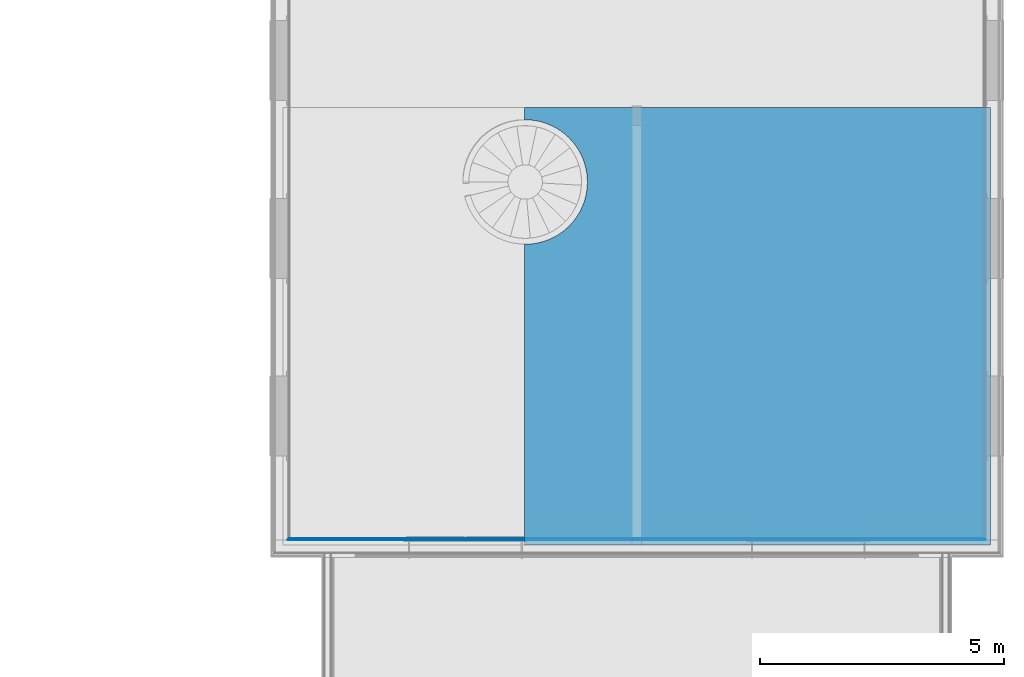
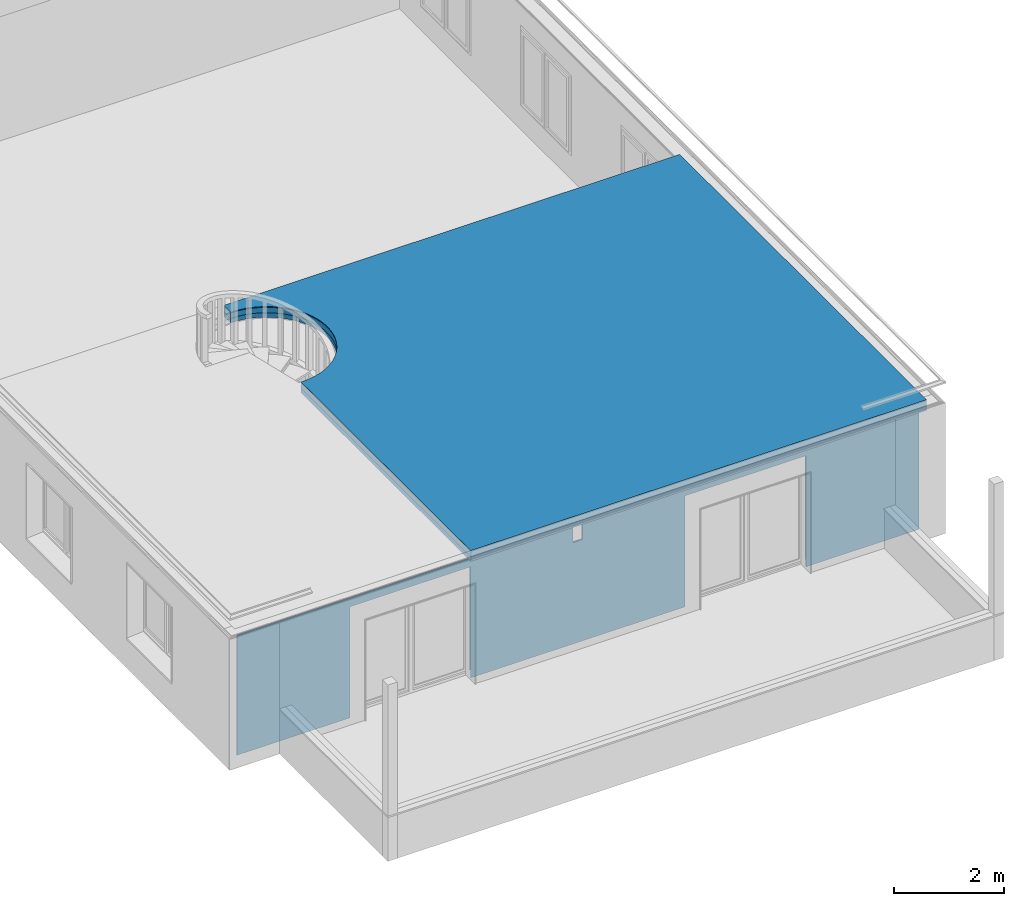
# One storey, part 16 of 36: 5 building element parts, 2 openings, 2 elements without a shape of their own.
"""IFC4 building model written with IfcOpenShell, lengths in millimetres."""

from ifc_helpers import new_model, entity, si_unit, converted_unit, derived_unit, direction, frame, origin_with_axes, place, context, subcontext, project, spatial, polygons, material, type_object, element, aggregate, save


model = new_model("IFC4")

# Units and contexts
model_context = context("Model", 3, precision=0.01, world=origin_with_axes(), true_north=direction((0.0, 1.0)))
body_context = subcontext(model_context, "Body", "Model", "MODEL_VIEW")
ifc_project = project(units=[si_unit("LENGTHUNIT", "METRE", prefix="MILLI"), si_unit("AREAUNIT", "SQUARE_METRE"), si_unit("VOLUMEUNIT", "CUBIC_METRE"), converted_unit("PLANEANGLEUNIT", "DEGREE", entity("IfcPlaneAngleMeasure", 0.0174532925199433), si_unit("PLANEANGLEUNIT", "RADIAN"), dimensions=[0, 0, 0, 0, 0, 0, 0]), converted_unit("TIMEUNIT", "Year", entity("IfcTimeMeasure", 31557600.0), si_unit("TIMEUNIT", "SECOND"), dimensions=[0, 0, 1, 0, 0, 0, 0]), si_unit("MASSUNIT", "GRAM", prefix="KILO"), si_unit("THERMODYNAMICTEMPERATUREUNIT", "DEGREE_CELSIUS"), si_unit("LUMINOUSINTENSITYUNIT", "LUMEN"), si_unit("ENERGYUNIT", "JOULE", prefix="MEGA"), derived_unit("THERMALCONDUCTANCEUNIT", [(si_unit("POWERUNIT", "WATT"), 1), (si_unit("LENGTHUNIT", "METRE"), -1), (si_unit("THERMODYNAMICTEMPERATUREUNIT", "KELVIN"), -1)]), derived_unit("SPECIFICHEATCAPACITYUNIT", [(si_unit("ENERGYUNIT", "JOULE"), 1), (si_unit("MASSUNIT", "GRAM", prefix="KILO"), -1), (si_unit("THERMODYNAMICTEMPERATUREUNIT", "KELVIN"), -1)]), derived_unit("MASSDENSITYUNIT", [(si_unit("MASSUNIT", "GRAM", prefix="KILO"), 1), (si_unit("VOLUMEUNIT", "CUBIC_METRE"), -1)])], contexts=[model_context])

# Site, building, storey
site_placement = place(None, origin_with_axes())
site = spatial("IfcSite", under=ifc_project, at=site_placement, Name="Gelände", CompositionType="ELEMENT")
building_placement = place(site_placement, origin_with_axes())
building = spatial("IfcBuilding", under=site, at=building_placement, Name="Gebäude", CompositionType="ELEMENT")
storey_placement = place(building_placement, frame((0.0, 0.0, 8700.0), z_axis=(0.0, 0.0, 1.0), x_axis=(1.0, 0.0, 0.0)))
storey = spatial("IfcBuildingStorey", under=building, at=storey_placement, Name="Attika", CompositionType="ELEMENT", Elevation=8700.0)

# Slab, building element parts
slab_type = type_object("IfcSlabType", Name="Geschossdecke Typ 01 256", PredefinedType="NOTDEFINED")
slab_placement = place(storey_placement, frame((23124.72367122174, 8696.59728131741, 3399.999896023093), z_axis=(0.0, 0.0, 1.0), x_axis=(1.0, 0.0, 0.0)))
slab = element("IfcSlab", 1, at=slab_placement, inside=storey, type_object=slab_type, Name="Deckennr.-073", PredefinedType="NOTDEFINED")
ifc_material_1 = material(Name="Grobspanplatte-OSB")
building_element_part_1_placement = place(slab_placement, origin_with_axes())
building_element_part_1 = element("IfcBuildingElementPart", 2, at=building_element_part_1_placement, material=ifc_material_1, Name="Grobspanplatte-OSB", PredefinedType="NOTDEFINED", context=body_context, shape_type="Tessellation", body=[
    polygons([(9555.273872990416, 0.0, -18.00000000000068), (9555.273872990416, 0.0, 0.0), (0.0, 0.0, 0.0), (0.0, 0.0, -18.00000000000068), (9555.273872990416, 8966.072831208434, -18.00000000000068), (9555.273872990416, 8966.072831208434, 0.0), (0.0, 8966.072831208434, 0.0), (0.0, 8713.355102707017, 0.0), (16.77412635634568, 8713.072831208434, 0.0), (146.1478094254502, 8707.738222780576, 0.0), (257.7184075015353, 8691.341771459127, 0.0), (367.4032898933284, 8665.148861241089, 0.0), (474.3440236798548, 8629.364487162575, 0.0), (577.7036526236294, 8584.268710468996, 0.0), (676.6732474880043, 8530.214466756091, 0.0), (770.478237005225, 8467.624803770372, 0.0), (858.3844699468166, 8396.9895704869, 0.0), (939.7039608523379, 8318.861583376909, 0.0), (1013.800274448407, 8233.852299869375, 0.0), (1080.093506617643, 8142.627032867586, 0.0), (1138.064822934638, 8045.899743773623, 0.0), (1187.260519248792, 7944.427454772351, 0.0), (1227.295572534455, 7839.004324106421, 0.0), (1257.856654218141, 7730.455430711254, 0.0), (1278.704582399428, 7619.6303168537, 0.0), (1289.676193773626, 7507.396339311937, 0.0), (1290.685620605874, 7394.631881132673, 0.0), (1281.724962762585, 7282.219477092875, 0.0), (1262.864349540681, 7171.038906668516, 0.0), (1234.251390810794, 7061.960308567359, 0.0), (1196.110021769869, 6955.837370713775, 0.0), (1148.738750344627, 6853.500648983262, 0.0), (1092.50832096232, 6755.751066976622, 0.0), (1027.858812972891, 6663.353647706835, 0.0), (955.2961964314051, 6577.031526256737, 0.0), (875.3883721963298, 6497.460290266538, 0.0), (788.7607273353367, 6425.262692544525, 0.0), (696.0912406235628, 6361.003777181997, 0.0), (598.1051764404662, 6305.186457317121, 0.0), (495.5694085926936, 6258.247579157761, 0.0), (389.2864184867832, 6220.554503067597, 0.0), (280.0880146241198, 6192.402228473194, 0.0), (168.8288225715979, 6174.011085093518, 0.0), (56.37959635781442, 6165.525008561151, 0.0), (0.0, 6166.267711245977, 0.0), (0.0, 6166.267711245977, -18.00000000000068), (56.37959635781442, 6165.525008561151, -18.00000000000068), (168.8288225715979, 6174.011085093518, -18.00000000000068), (280.0880146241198, 6192.402228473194, -18.00000000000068), (389.2864184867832, 6220.554503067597, -18.00000000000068), (495.5694085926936, 6258.247579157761, -18.00000000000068), (598.1051764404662, 6305.186457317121, -18.00000000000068), (696.0912406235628, 6361.003777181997, -18.00000000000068), (788.7607273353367, 6425.262692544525, -18.00000000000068), (875.3883721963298, 6497.460290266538, -18.00000000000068), (955.2961964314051, 6577.031526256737, -18.00000000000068), (1027.858812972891, 6663.353647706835, -18.00000000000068), (1092.50832096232, 6755.751066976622, -18.00000000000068), (1148.738750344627, 6853.500648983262, -18.00000000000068), (1196.110021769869, 6955.837370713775, -18.00000000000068), (1234.251390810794, 7061.960308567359, -18.00000000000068), (1262.864349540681, 7171.038906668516, -18.00000000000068), (1281.724962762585, 7282.219477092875, -18.00000000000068), (1290.685620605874, 7394.631881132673, -18.00000000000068), (1289.676193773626, 7507.396339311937, -18.00000000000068), (1278.704582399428, 7619.6303168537, -18.00000000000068), (1257.856654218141, 7730.455430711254, -18.00000000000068), (1227.295572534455, 7839.004324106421, -18.00000000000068), (1187.260519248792, 7944.427454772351, -18.00000000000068), (1138.064822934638, 8045.899743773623, -18.00000000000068), (1080.093506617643, 8142.627032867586, -18.00000000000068), (1013.800274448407, 8233.852299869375, -18.00000000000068), (939.7039608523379, 8318.861583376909, -18.00000000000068), (858.3844699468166, 8396.9895704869, -18.00000000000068), (770.478237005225, 8467.624803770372, -18.00000000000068), (676.6732474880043, 8530.214466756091, -18.00000000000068), (577.7036526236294, 8584.268710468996, -18.00000000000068), (474.3440236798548, 8629.364487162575, -18.00000000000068), (367.4032898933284, 8665.148861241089, -18.00000000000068), (257.7184075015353, 8691.341771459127, -18.00000000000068), (146.1478094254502, 8707.738222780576, -18.00000000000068), (16.77412635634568, 8713.072831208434, -18.00000000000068), (0.0, 8713.355102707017, -18.00000000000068), (0.0, 8966.072831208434, -18.00000000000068)], [[[1, 2, 3, 4]], [[5, 6, 2, 1]], [[3, 2, 6, 7, 8, 9, 10, 11, 12, 13, 14, 15, 16, 17, 18, 19, 20, 21, 22, 23, 24, 25, 26, 27, 28, 29, 30, 31, 32, 33, 34, 35, 36, 37, 38, 39, 40, 41, 42, 43, 44, 45]], [[4, 3, 45, 46]], [[4, 46, 47, 48, 49, 50, 51, 52, 53, 54, 55, 56, 57, 58, 59, 60, 61, 62, 63, 64, 65, 66, 67, 68, 69, 70, 71, 72, 73, 74, 75, 76, 77, 78, 79, 80, 81, 82, 83, 84, 5, 1]], [[84, 7, 6, 5]], [[83, 8, 7, 84]], [[82, 9, 8, 83]], [[81, 10, 9, 82]], [[80, 11, 10, 81]], [[79, 12, 11, 80]], [[78, 13, 12, 79]], [[77, 14, 13, 78]], [[76, 15, 14, 77]], [[75, 16, 15, 76]], [[74, 17, 16, 75]], [[73, 18, 17, 74]], [[72, 19, 18, 73]], [[71, 20, 19, 72]], [[70, 21, 20, 71]], [[69, 22, 21, 70]], [[68, 23, 22, 69]], [[67, 24, 23, 68]], [[66, 25, 24, 67]], [[65, 26, 25, 66]], [[64, 27, 26, 65]], [[63, 28, 27, 64]], [[62, 29, 28, 63]], [[61, 30, 29, 62]], [[60, 31, 30, 61]], [[59, 32, 31, 60]], [[58, 33, 32, 59]], [[57, 34, 33, 58]], [[56, 35, 34, 57]], [[55, 36, 35, 56]], [[54, 37, 36, 55]], [[53, 38, 37, 54]], [[52, 39, 38, 53]], [[51, 40, 39, 52]], [[50, 41, 40, 51]], [[49, 42, 41, 50]], [[48, 43, 42, 49]], [[47, 44, 43, 48]], [[46, 45, 44, 47]]], closed=True),
])
ifc_material_2 = material(Name="Balken Konstruktion ungedämmt")
building_element_part_2_placement = place(slab_placement, origin_with_axes())
building_element_part_2 = element("IfcBuildingElementPart", 3, at=building_element_part_2_placement, material=ifc_material_2, Name="Balken Konstruktion ungedämmt", PredefinedType="NOTDEFINED", context=body_context, shape_type="Tessellation", body=[
    polygons([(9555.273872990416, 0.0, -137.9999999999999), (9555.273872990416, 0.0, -18.00000000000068), (0.0, 0.0, -18.00000000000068), (0.0, 0.0, -137.9999999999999), (9555.273872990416, 8966.072831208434, -137.9999999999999), (9555.273872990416, 8966.072831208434, -18.00000000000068), (0.0, 8966.072831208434, -18.00000000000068), (0.0, 8713.355102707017, -18.00000000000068), (16.77412635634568, 8713.072831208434, -18.00000000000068), (146.1478094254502, 8707.738222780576, -18.00000000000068), (257.7184075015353, 8691.341771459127, -18.00000000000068), (367.4032898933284, 8665.148861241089, -18.00000000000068), (474.3440236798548, 8629.364487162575, -18.00000000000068), (577.7036526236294, 8584.268710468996, -18.00000000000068), (676.6732474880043, 8530.214466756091, -18.00000000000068), (770.478237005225, 8467.624803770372, -18.00000000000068), (858.3844699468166, 8396.9895704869, -18.00000000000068), (939.7039608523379, 8318.861583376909, -18.00000000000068), (1013.800274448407, 8233.852299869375, -18.00000000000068), (1080.093506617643, 8142.627032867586, -18.00000000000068), (1138.064822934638, 8045.899743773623, -18.00000000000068), (1187.260519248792, 7944.427454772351, -18.00000000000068), (1227.295572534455, 7839.004324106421, -18.00000000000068), (1257.856654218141, 7730.455430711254, -18.00000000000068), (1278.704582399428, 7619.6303168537, -18.00000000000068), (1289.676193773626, 7507.396339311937, -18.00000000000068), (1290.685620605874, 7394.631881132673, -18.00000000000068), (1281.724962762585, 7282.219477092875, -18.00000000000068), (1262.864349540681, 7171.038906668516, -18.00000000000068), (1234.251390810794, 7061.960308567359, -18.00000000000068), (1196.110021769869, 6955.837370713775, -18.00000000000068), (1148.738750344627, 6853.500648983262, -18.00000000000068), (1092.50832096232, 6755.751066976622, -18.00000000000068), (1027.858812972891, 6663.353647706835, -18.00000000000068), (955.2961964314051, 6577.031526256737, -18.00000000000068), (875.3883721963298, 6497.460290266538, -18.00000000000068), (788.7607273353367, 6425.262692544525, -18.00000000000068), (696.0912406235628, 6361.003777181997, -18.00000000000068), (598.1051764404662, 6305.186457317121, -18.00000000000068), (495.5694085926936, 6258.247579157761, -18.00000000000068), (389.2864184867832, 6220.554503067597, -18.00000000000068), (280.0880146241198, 6192.402228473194, -18.00000000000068), (168.8288225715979, 6174.011085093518, -18.00000000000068), (56.37959635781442, 6165.525008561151, -18.00000000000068), (0.0, 6166.267711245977, -18.00000000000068), (0.0, 6166.267711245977, -137.9999999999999), (56.37959635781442, 6165.525008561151, -137.9999999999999), (168.8288225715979, 6174.011085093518, -137.9999999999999), (280.0880146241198, 6192.402228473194, -137.9999999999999), (389.2864184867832, 6220.554503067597, -137.9999999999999), (495.5694085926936, 6258.247579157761, -137.9999999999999), (598.1051764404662, 6305.186457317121, -137.9999999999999), (696.0912406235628, 6361.003777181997, -137.9999999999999), (788.7607273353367, 6425.262692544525, -137.9999999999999), (875.3883721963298, 6497.460290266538, -137.9999999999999), (955.2961964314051, 6577.031526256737, -137.9999999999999), (1027.858812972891, 6663.353647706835, -137.9999999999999), (1092.50832096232, 6755.751066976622, -137.9999999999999), (1148.738750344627, 6853.500648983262, -137.9999999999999), (1196.110021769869, 6955.837370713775, -137.9999999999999), (1234.251390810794, 7061.960308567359, -137.9999999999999), (1262.864349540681, 7171.038906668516, -137.9999999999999), (1281.724962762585, 7282.219477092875, -137.9999999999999), (1290.685620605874, 7394.631881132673, -137.9999999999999), (1289.676193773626, 7507.396339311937, -137.9999999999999), (1278.704582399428, 7619.6303168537, -137.9999999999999), (1257.856654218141, 7730.455430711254, -137.9999999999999), (1227.295572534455, 7839.004324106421, -137.9999999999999), (1187.260519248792, 7944.427454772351, -137.9999999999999), (1138.064822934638, 8045.899743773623, -137.9999999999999), (1080.093506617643, 8142.627032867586, -137.9999999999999), (1013.800274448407, 8233.852299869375, -137.9999999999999), (939.7039608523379, 8318.861583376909, -137.9999999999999), (858.3844699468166, 8396.9895704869, -137.9999999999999), (770.478237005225, 8467.624803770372, -137.9999999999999), (676.6732474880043, 8530.214466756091, -137.9999999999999), (577.7036526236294, 8584.268710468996, -137.9999999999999), (474.3440236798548, 8629.364487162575, -137.9999999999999), (367.4032898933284, 8665.148861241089, -137.9999999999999), (257.7184075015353, 8691.341771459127, -137.9999999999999), (146.1478094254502, 8707.738222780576, -137.9999999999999), (16.77412635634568, 8713.072831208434, -137.9999999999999), (0.0, 8713.355102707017, -137.9999999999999), (0.0, 8966.072831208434, -137.9999999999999)], [[[1, 2, 3, 4]], [[5, 6, 2, 1]], [[3, 2, 6, 7, 8, 9, 10, 11, 12, 13, 14, 15, 16, 17, 18, 19, 20, 21, 22, 23, 24, 25, 26, 27, 28, 29, 30, 31, 32, 33, 34, 35, 36, 37, 38, 39, 40, 41, 42, 43, 44, 45]], [[4, 3, 45, 46]], [[4, 46, 47, 48, 49, 50, 51, 52, 53, 54, 55, 56, 57, 58, 59, 60, 61, 62, 63, 64, 65, 66, 67, 68, 69, 70, 71, 72, 73, 74, 75, 76, 77, 78, 79, 80, 81, 82, 83, 84, 5, 1]], [[84, 7, 6, 5]], [[83, 8, 7, 84]], [[82, 9, 8, 83]], [[81, 10, 9, 82]], [[80, 11, 10, 81]], [[79, 12, 11, 80]], [[78, 13, 12, 79]], [[77, 14, 13, 78]], [[76, 15, 14, 77]], [[75, 16, 15, 76]], [[74, 17, 16, 75]], [[73, 18, 17, 74]], [[72, 19, 18, 73]], [[71, 20, 19, 72]], [[70, 21, 20, 71]], [[69, 22, 21, 70]], [[68, 23, 22, 69]], [[67, 24, 23, 68]], [[66, 25, 24, 67]], [[65, 26, 25, 66]], [[64, 27, 26, 65]], [[63, 28, 27, 64]], [[62, 29, 28, 63]], [[61, 30, 29, 62]], [[60, 31, 30, 61]], [[59, 32, 31, 60]], [[58, 33, 32, 59]], [[57, 34, 33, 58]], [[56, 35, 34, 57]], [[55, 36, 35, 56]], [[54, 37, 36, 55]], [[53, 38, 37, 54]], [[52, 39, 38, 53]], [[51, 40, 39, 52]], [[50, 41, 40, 51]], [[49, 42, 41, 50]], [[48, 43, 42, 49]], [[47, 44, 43, 48]], [[46, 45, 44, 47]]], closed=True),
])
ifc_material_3 = material(Name="Balken Konstruktion gedämmt")
building_element_part_3_placement = place(slab_placement, origin_with_axes())
building_element_part_3 = element("IfcBuildingElementPart", 4, at=building_element_part_3_placement, material=ifc_material_3, Name="Balken Konstruktion gedämmt", PredefinedType="NOTDEFINED", context=body_context, shape_type="Tessellation", body=[
    polygons([(9555.273872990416, 0.0, -237.9999999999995), (9555.273872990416, 0.0, -137.9999999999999), (0.0, 0.0, -137.9999999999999), (0.0, 0.0, -237.9999999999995), (9555.273872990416, 8966.072831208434, -237.9999999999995), (9555.273872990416, 8966.072831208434, -137.9999999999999), (0.0, 8966.072831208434, -137.9999999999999), (0.0, 8713.355102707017, -137.9999999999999), (16.77412635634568, 8713.072831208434, -137.9999999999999), (146.1478094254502, 8707.738222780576, -137.9999999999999), (257.7184075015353, 8691.341771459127, -137.9999999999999), (367.4032898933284, 8665.148861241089, -137.9999999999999), (474.3440236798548, 8629.364487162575, -137.9999999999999), (577.7036526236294, 8584.268710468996, -137.9999999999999), (676.6732474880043, 8530.214466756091, -137.9999999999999), (770.478237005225, 8467.624803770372, -137.9999999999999), (858.3844699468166, 8396.9895704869, -137.9999999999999), (939.7039608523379, 8318.861583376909, -137.9999999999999), (1013.800274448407, 8233.852299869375, -137.9999999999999), (1080.093506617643, 8142.627032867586, -137.9999999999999), (1138.064822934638, 8045.899743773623, -137.9999999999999), (1187.260519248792, 7944.427454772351, -137.9999999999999), (1227.295572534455, 7839.004324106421, -137.9999999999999), (1257.856654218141, 7730.455430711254, -137.9999999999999), (1278.704582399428, 7619.6303168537, -137.9999999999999), (1289.676193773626, 7507.396339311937, -137.9999999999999), (1290.685620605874, 7394.631881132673, -137.9999999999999), (1281.724962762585, 7282.219477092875, -137.9999999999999), (1262.864349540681, 7171.038906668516, -137.9999999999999), (1234.251390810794, 7061.960308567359, -137.9999999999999), (1196.110021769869, 6955.837370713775, -137.9999999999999), (1148.738750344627, 6853.500648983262, -137.9999999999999), (1092.50832096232, 6755.751066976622, -137.9999999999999), (1027.858812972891, 6663.353647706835, -137.9999999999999), (955.2961964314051, 6577.031526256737, -137.9999999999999), (875.3883721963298, 6497.460290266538, -137.9999999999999), (788.7607273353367, 6425.262692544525, -137.9999999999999), (696.0912406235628, 6361.003777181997, -137.9999999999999), (598.1051764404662, 6305.186457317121, -137.9999999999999), (495.5694085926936, 6258.247579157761, -137.9999999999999), (389.2864184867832, 6220.554503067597, -137.9999999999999), (280.0880146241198, 6192.402228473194, -137.9999999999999), (168.8288225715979, 6174.011085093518, -137.9999999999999), (56.37959635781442, 6165.525008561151, -137.9999999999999), (0.0, 6166.267711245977, -137.9999999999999), (0.0, 6166.267711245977, -237.9999999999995), (56.37959635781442, 6165.525008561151, -237.9999999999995), (168.8288225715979, 6174.011085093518, -237.9999999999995), (280.0880146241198, 6192.402228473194, -237.9999999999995), (389.2864184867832, 6220.554503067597, -237.9999999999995), (495.5694085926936, 6258.247579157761, -237.9999999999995), (598.1051764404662, 6305.186457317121, -237.9999999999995), (696.0912406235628, 6361.003777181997, -237.9999999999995), (788.7607273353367, 6425.262692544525, -237.9999999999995), (875.3883721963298, 6497.460290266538, -237.9999999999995), (955.2961964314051, 6577.031526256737, -237.9999999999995), (1027.858812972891, 6663.353647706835, -237.9999999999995), (1092.50832096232, 6755.751066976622, -237.9999999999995), (1148.738750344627, 6853.500648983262, -237.9999999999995), (1196.110021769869, 6955.837370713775, -237.9999999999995), (1234.251390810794, 7061.960308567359, -237.9999999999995), (1262.864349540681, 7171.038906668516, -237.9999999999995), (1281.724962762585, 7282.219477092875, -237.9999999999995), (1290.685620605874, 7394.631881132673, -237.9999999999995), (1289.676193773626, 7507.396339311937, -237.9999999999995), (1278.704582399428, 7619.6303168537, -237.9999999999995), (1257.856654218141, 7730.455430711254, -237.9999999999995), (1227.295572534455, 7839.004324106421, -237.9999999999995), (1187.260519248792, 7944.427454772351, -237.9999999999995), (1138.064822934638, 8045.899743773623, -237.9999999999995), (1080.093506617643, 8142.627032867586, -237.9999999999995), (1013.800274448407, 8233.852299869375, -237.9999999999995), (939.7039608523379, 8318.861583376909, -237.9999999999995), (858.3844699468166, 8396.9895704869, -237.9999999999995), (770.478237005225, 8467.624803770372, -237.9999999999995), (676.6732474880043, 8530.214466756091, -237.9999999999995), (577.7036526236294, 8584.268710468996, -237.9999999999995), (474.3440236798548, 8629.364487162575, -237.9999999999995), (367.4032898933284, 8665.148861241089, -237.9999999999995), (257.7184075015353, 8691.341771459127, -237.9999999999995), (146.1478094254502, 8707.738222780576, -237.9999999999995), (16.77412635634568, 8713.072831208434, -237.9999999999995), (0.0, 8713.355102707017, -237.9999999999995), (0.0, 8966.072831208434, -237.9999999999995)], [[[1, 2, 3, 4]], [[5, 6, 2, 1]], [[3, 2, 6, 7, 8, 9, 10, 11, 12, 13, 14, 15, 16, 17, 18, 19, 20, 21, 22, 23, 24, 25, 26, 27, 28, 29, 30, 31, 32, 33, 34, 35, 36, 37, 38, 39, 40, 41, 42, 43, 44, 45]], [[4, 3, 45, 46]], [[4, 46, 47, 48, 49, 50, 51, 52, 53, 54, 55, 56, 57, 58, 59, 60, 61, 62, 63, 64, 65, 66, 67, 68, 69, 70, 71, 72, 73, 74, 75, 76, 77, 78, 79, 80, 81, 82, 83, 84, 5, 1]], [[84, 7, 6, 5]], [[83, 8, 7, 84]], [[82, 9, 8, 83]], [[81, 10, 9, 82]], [[80, 11, 10, 81]], [[79, 12, 11, 80]], [[78, 13, 12, 79]], [[77, 14, 13, 78]], [[76, 15, 14, 77]], [[75, 16, 15, 76]], [[74, 17, 16, 75]], [[73, 18, 17, 74]], [[72, 19, 18, 73]], [[71, 20, 19, 72]], [[70, 21, 20, 71]], [[69, 22, 21, 70]], [[68, 23, 22, 69]], [[67, 24, 23, 68]], [[66, 25, 24, 67]], [[65, 26, 25, 66]], [[64, 27, 26, 65]], [[63, 28, 27, 64]], [[62, 29, 28, 63]], [[61, 30, 29, 62]], [[60, 31, 30, 61]], [[59, 32, 31, 60]], [[58, 33, 32, 59]], [[57, 34, 33, 58]], [[56, 35, 34, 57]], [[55, 36, 35, 56]], [[54, 37, 36, 55]], [[53, 38, 37, 54]], [[52, 39, 38, 53]], [[51, 40, 39, 52]], [[50, 41, 40, 51]], [[49, 42, 41, 50]], [[48, 43, 42, 49]], [[47, 44, 43, 48]], [[46, 45, 44, 47]]], closed=True),
])
aggregate(slab, [building_element_part_1, building_element_part_2, building_element_part_3])

# Wall, openings, building element parts
wall_type = type_object("IfcWallType", Name="Aussenwand Typ 01 318", PredefinedType="NOTDEFINED")
wall_placement = place(storey_placement, frame((32857.99744477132, 8518.597281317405, 500.0), z_axis=(0.0, 0.0, 1.0), x_axis=(-1.0, 0.0, 0.0)))
wall = element("IfcWall", 5, at=wall_placement, inside=storey, type_object=wall_type, Name="Wand-014", PredefinedType="NOTDEFINED")
opening_1_placement = place(wall_placement, frame((10942.33333333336, 0.0, 159.9999480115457), z_axis=(0.0, 0.0, 1.0), x_axis=(1.0, 0.0, 0.0)))
element("IfcOpeningElement", 6, at=opening_1_placement, cuts=wall, Name="Fenster-004", context=body_context, identifier="Reference", shape_type="Tessellation", body=[
    polygons([(-1166.0, -250.0, 2201.000051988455), (1166.0, -250.0000000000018, 2201.000051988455), (1166.0, 1.000000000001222, 2201.000051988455), (-1166.0, 1.000000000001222, 2201.000051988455), (1145.0, -150.0000000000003, 2201.000051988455), (-1145.0, -150.0000000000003, 2201.000051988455), (-1145.0, 0.0, 2201.000051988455), (1145.0, 0.0, 2201.000051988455), (-1166.0, -250.0, -160.0000000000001), (-1266.000000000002, -250.0, -160.0000000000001), (-1266.000000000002, -250.0, 2301.000051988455), (1266.000000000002, -250.0000000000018, 2301.000051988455), (1266.000000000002, -250.0000000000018, -160.0000000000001), (1166.0, -250.0000000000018, -160.0000000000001), (1166.0, 1.000000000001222, -160.0000000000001), (-1166.0, 1.000000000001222, -160.0000000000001), (1145.0, -150.0000000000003, 2470.000051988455), (-1145.0, -150.0000000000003, 2470.000051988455), (-1145.0, 0.0, 2470.000051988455), (1145.0, 0.0, 2470.000051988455), (1266.000000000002, -319.0000000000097, -160.0000000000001), (-1266.000000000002, -319.000000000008, -160.0000000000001), (-1266.000000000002, -319.000000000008, 2301.000051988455), (1266.000000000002, -319.0000000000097, 2301.000051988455)], [[[1, 2, 3, 4], [5, 6, 7, 8]], [[2, 1, 9, 10, 11, 12, 13, 14]], [[2, 14, 15, 3]], [[3, 15, 16, 4]], [[9, 1, 4, 16]], [[6, 5, 17, 18]], [[7, 6, 18, 19]], [[8, 7, 19, 20]], [[5, 8, 20, 17]], [[9, 14, 13, 21, 22, 10]], [[11, 10, 22, 23]], [[12, 11, 23, 24]], [[13, 12, 24, 21]], [[14, 9, 16, 15]], [[17, 20, 19, 18]], [[23, 22, 21, 24]]], closed=True),
])
opening_2_placement = place(wall_placement, frame((3915.666667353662, 0.0, 140.0000000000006), z_axis=(0.0, 0.0, 1.0), x_axis=(1.0, 0.0, 0.0)))
element("IfcOpeningElement", 7, at=opening_2_placement, cuts=wall, Name="Fenster-004", context=body_context, identifier="Reference", shape_type="Tessellation", body=[
    polygons([(-1166.0, -249.9999999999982, 2221.0), (1166.0, -250.0, 2221.0), (1166.0, 1.000000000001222, 2221.0), (-1166.0, 1.000000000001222, 2221.0), (1145.0, -149.9999999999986, 2221.0), (-1145.0, -149.9999999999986, 2221.0), (-1145.0, 0.0, 2221.0), (1145.0, 0.0, 2221.0), (-1166.0, -249.9999999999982, -140.0000000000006), (-1265.999999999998, -249.9999999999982, -140.0000000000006), (-1265.999999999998, -249.9999999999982, 2321.0), (1265.999999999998, -250.0, 2321.0), (1265.999999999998, -250.0, -140.0000000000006), (1166.0, -250.0, -140.0000000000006), (1166.0, 1.000000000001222, -140.0000000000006), (-1166.0, 1.000000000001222, -140.0000000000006), (1145.0, -149.9999999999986, 2490.0), (-1145.0, -149.9999999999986, 2490.0), (-1145.0, 0.0, 2490.0), (1145.0, 0.0, 2490.0), (1265.999999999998, -319.0000000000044, -140.0000000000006), (-1265.999999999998, -319.0000000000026, -140.0000000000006), (-1265.999999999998, -319.0000000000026, 2321.0), (1265.999999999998, -319.0000000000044, 2321.0)], [[[1, 2, 3, 4], [5, 6, 7, 8]], [[2, 1, 9, 10, 11, 12, 13, 14]], [[2, 14, 15, 3]], [[3, 15, 16, 4]], [[9, 1, 4, 16]], [[6, 5, 17, 18]], [[7, 6, 18, 19]], [[8, 7, 19, 20]], [[5, 8, 20, 17]], [[9, 14, 13, 21, 22, 10]], [[11, 10, 22, 23]], [[12, 11, 23, 24]], [[13, 12, 24, 21]], [[14, 9, 16, 15]], [[19, 18, 17, 20]], [[23, 22, 21, 24]]], closed=True),
])
ifc_material_4 = material(Name="Gipsfaserplatte GFP")
building_element_part_4_placement = place(wall_placement, origin_with_axes())
building_element_part_4 = element("IfcBuildingElementPart", 8, at=building_element_part_4_placement, material=ifc_material_4, Name="Gipsfaserplatte GFP", PredefinedType="NOTDEFINED", context=body_context, shape_type="Tessellation", body=[
    polygons([(5181.666667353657, -293.000000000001, 2461.0), (5181.666667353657, -293.000000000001, 0.0), (9676.33333333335, -292.9999999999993, -5.198845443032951e-05), (9676.33333333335, -292.9999999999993, 2461.0), (12208.33333333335, -292.9999999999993, 2461.0), (12208.33333333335, -292.9999999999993, -5.198845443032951e-05), (14580.00000000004, -292.9999999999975, 0.0), (14580.00000000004, -292.9999999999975, 2643.999896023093), (7529.000000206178, -292.9999999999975, 2643.999896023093), (7529.000000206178, -292.9999999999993, 2243.999896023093), (7329.000000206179, -292.9999999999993, 2243.999896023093), (7329.000000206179, -292.9999999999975, 2643.999896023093), (277.9999999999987, -292.9999999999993, 2643.999896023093), (277.9999999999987, -292.9999999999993, 0.0), (2649.66666735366, -292.9999999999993, 0.0), (2649.66666735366, -293.000000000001, 2461.0), (5181.666667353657, -278.0000000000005, 2461.0), (5181.666667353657, -278.0000000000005, 0.0), (9676.33333333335, -277.9999999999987, -5.198845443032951e-05), (9676.33333333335, -277.9999999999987, 2461.0), (12208.33333333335, -277.9999999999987, 2461.0), (12208.33333333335, -277.9999999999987, -5.198845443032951e-05), (14580.00000000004, -277.9999999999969, 0.0), (14580.00000000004, -277.9999999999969, 2643.999896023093), (7529.000000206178, -277.9999999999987, 2643.999896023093), (7529.000000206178, -277.9999999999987, 2243.999896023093), (7329.000000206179, -277.9999999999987, 2243.999896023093), (7329.000000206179, -277.9999999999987, 2643.999896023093), (277.9999999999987, -278.0000000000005, 2643.999896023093), (277.9999999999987, -278.0000000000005, 0.0), (2649.66666735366, -278.0000000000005, 0.0), (2649.66666735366, -278.0000000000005, 2461.0)], [[[1, 2, 3, 4, 5, 6, 7, 8, 9, 10, 11, 12, 13, 14, 15, 16]], [[2, 1, 17, 18]], [[2, 18, 19, 3]], [[3, 19, 20, 4]], [[4, 20, 21, 5]], [[5, 21, 22, 6]], [[22, 23, 7, 6]], [[8, 7, 23, 24]], [[8, 24, 25, 9]], [[25, 26, 10, 9]], [[26, 27, 11, 10]], [[11, 27, 28, 12]], [[29, 13, 12, 28]], [[29, 30, 14, 13]], [[31, 15, 14, 30]], [[16, 15, 31, 32]], [[1, 16, 32, 17]], [[32, 31, 30, 29, 28, 27, 26, 25, 24, 23, 22, 21, 20, 19, 18, 17]]], closed=True),
])
ifc_material_5 = material(Name="Verputz Innen")
building_element_part_5_placement = place(wall_placement, origin_with_axes())
building_element_part_5 = element("IfcBuildingElementPart", 9, at=building_element_part_5_placement, material=ifc_material_5, Name="Verputz Innen", PredefinedType="NOTDEFINED", context=body_context, shape_type="Tessellation", body=[
    polygons([(5181.666667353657, -318.0000000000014, 2461.0), (5181.666667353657, -317.9999999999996, 150.0000000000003), (9676.33333333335, -317.9999999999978, 150.0000000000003), (9676.33333333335, -317.9999999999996, 2461.0), (12208.33333333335, -317.9999999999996, 2461.0), (12208.33333333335, -317.9999999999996, 150.0000000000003), (14550.00000000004, -317.9999999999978, 150.0000000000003), (14550.00000000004, -317.9999999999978, 2643.999896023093), (7529.000000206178, -317.9999999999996, 2643.999896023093), (7529.000000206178, -317.9999999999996, 2243.999896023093), (7329.000000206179, -317.9999999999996, 2243.999896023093), (7329.000000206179, -318.0000000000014, 2643.999896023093), (307.9999999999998, -317.9999999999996, 2643.999896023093), (307.9999999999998, -317.9999999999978, 150.0000000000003), (2649.66666735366, -317.9999999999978, 150.0000000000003), (2649.66666735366, -318.0000000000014, 2461.0), (5181.666667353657, -308.0000000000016, 2461.0), (5181.666667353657, -308.0000000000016, 150.0000000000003), (9676.33333333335, -307.9999999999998, 150.0000000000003), (9676.33333333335, -307.9999999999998, 2461.0), (12208.33333333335, -307.9999999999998, 2461.0), (12208.33333333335, -308.0000000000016, 150.0000000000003), (14550.00000000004, -307.9999999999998, 150.0000000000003), (14550.00000000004, -307.9999999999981, 2643.999896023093), (7529.000000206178, -307.9999999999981, 2643.999896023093), (7529.000000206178, -307.9999999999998, 2243.999896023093), (7329.000000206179, -307.9999999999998, 2243.999896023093), (7329.000000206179, -307.9999999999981, 2643.999896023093), (307.9999999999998, -307.9999999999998, 2643.999896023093), (307.9999999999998, -307.9999999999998, 150.0000000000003), (2649.66666735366, -307.9999999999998, 150.0000000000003), (2649.66666735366, -308.0000000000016, 2461.0)], [[[1, 2, 3, 4, 5, 6, 7, 8, 9, 10, 11, 12, 13, 14, 15, 16]], [[2, 1, 17, 18]], [[2, 18, 19, 3]], [[3, 19, 20, 4]], [[4, 20, 21, 5]], [[5, 21, 22, 6]], [[22, 23, 7, 6]], [[8, 7, 23, 24]], [[8, 24, 25, 9]], [[25, 26, 10, 9]], [[26, 27, 11, 10]], [[11, 27, 28, 12]], [[29, 13, 12, 28]], [[14, 13, 29, 30]], [[31, 15, 14, 30]], [[16, 15, 31, 32]], [[1, 16, 32, 17]], [[32, 31, 30, 29, 28, 27, 26, 25, 24, 23, 22, 21, 20, 19, 18, 17]]], closed=True),
])
aggregate(wall, [building_element_part_4, building_element_part_5])

save(model, "model.ifc")
